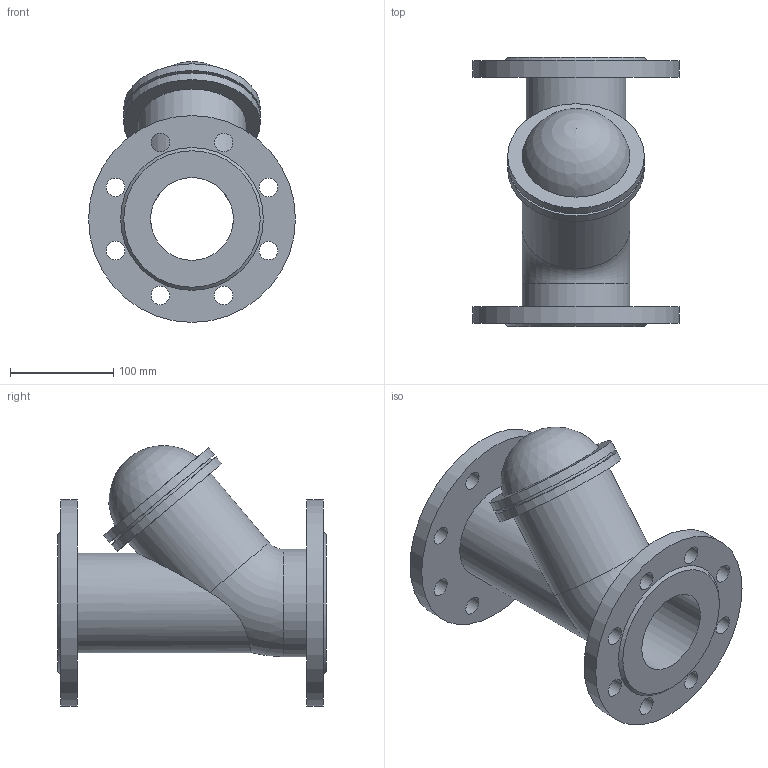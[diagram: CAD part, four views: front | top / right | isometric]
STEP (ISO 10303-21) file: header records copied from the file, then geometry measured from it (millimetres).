
FILE_DESCRIPTION(('STEP AP203'), '1');
FILE_NAME('Êëàïàí îáðàòíûé øàðîâîé ôëàíöåâûé 012F DN80', '', ('UNSPECIFIED'), ('UNSPECIFIED'), 'ASCON STEP Converter 1.6', 'ASCON Math Kernel', '');
FILE_SCHEMA(('CONFIG_CONTROL_DESIGN'));
Length unit declared in the file: millimetre
Bounding box: 200 x 260 x 252.18 mm (x, y, z)
Volume: 2085115.8 mm3; surface area: 331948.1 mm2
Topology: 1 solids, 1 shells, 44 faces, 105 edges, 70 vertices
Faces by surface type: cylinder 27, plane 12, torus 2, cone 2, sphere 1
Full cylindrical faces by diameter (mm): 18 x16, 80 x2, 96 x1, 104 x2, 122 x1, 132 x2, 200 x2
Entity records: 1958 total; most frequent: CARTESIAN_POINT 566, DIRECTION 216, ORIENTED_EDGE 146, EDGE_LOOP 116, AXIS2_PLACEMENT_3D 108, EDGE_CURVE 73, VERTEX_POINT 69, CIRCLE 63
